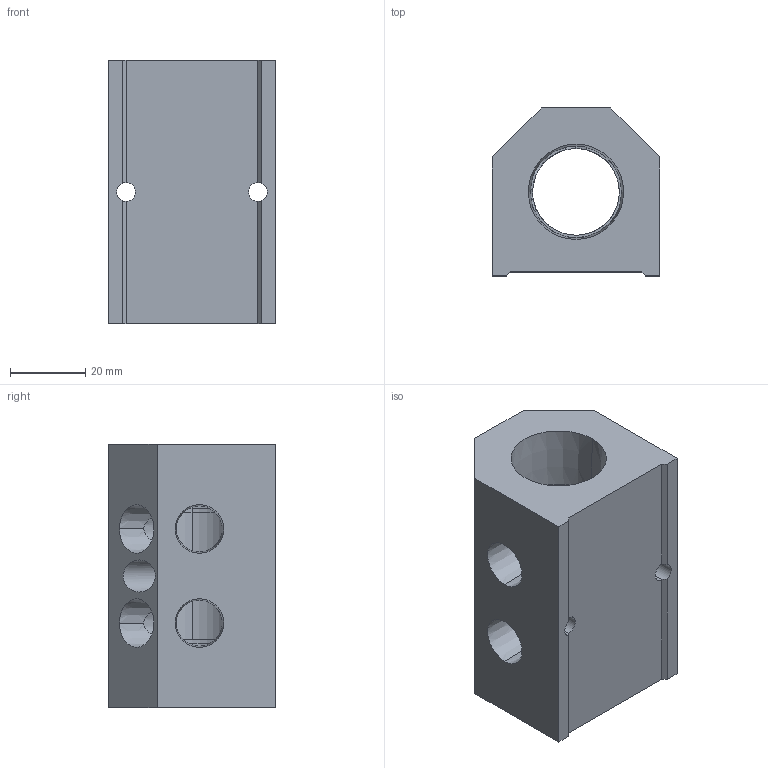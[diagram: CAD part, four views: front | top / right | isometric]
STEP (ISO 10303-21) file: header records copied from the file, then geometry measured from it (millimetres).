
FILE_DESCRIPTION (( 'STEP AP214' ), '1' );
FILE_NAME ('ALM2ABC-N4N12-70B.step', '2022-02-06T14:10:17', ( '' ), ( '' ), 'SwSTEP 2.0', 'SolidWorks 2020', '' );
FILE_SCHEMA (( 'AUTOMOTIVE_DESIGN' ));
Length unit declared in the file: millimetre
Products named in the file (1): ALM2ABC-N4N12-70B
Bounding box: 44.5 x 44.5 x 70 mm (x, y, z)
Volume: 82854.3 mm3; surface area: 21543.8 mm2
Topology: 1 solids, 1 shells, 308 faces, 837 edges, 556 vertices
Faces by surface type: plane 209, bspline 55, cone 23, cylinder 21
Entity records: 13985 total; most frequent: CARTESIAN_POINT 6451, ORIENTED_EDGE 1674, DIRECTION 1209, EDGE_CURVE 837, LINE 585, VECTOR 585, VERTEX_POINT 556, EDGE_LOOP 351
